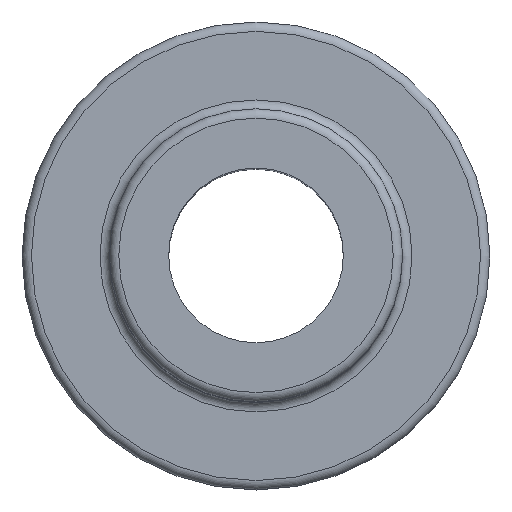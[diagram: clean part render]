
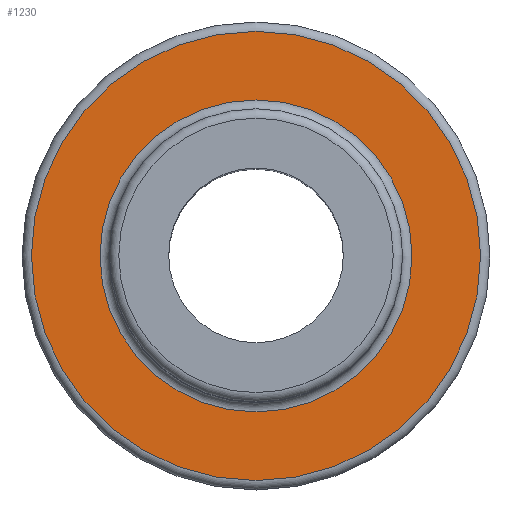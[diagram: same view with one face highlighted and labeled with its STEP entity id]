
A CAD part, top view. The second image highlights one B-rep face of the part: STEP entity #1230.
In plain terms, the highlighted planar face has unit normal (0, 0, 1).
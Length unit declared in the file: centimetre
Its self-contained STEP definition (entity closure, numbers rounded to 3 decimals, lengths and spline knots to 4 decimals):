
#348=PLANE('',#1334);
#409=VERTEX_POINT('',#2610);
#410=VERTEX_POINT('',#2613);
#500=CIRCLE('',#1333,1.8288);
#501=CIRCLE('',#1335,1.27);
#578=EDGE_CURVE('',#409,#409,#500,.T.);
#579=EDGE_CURVE('',#410,#410,#501,.T.);
#807=ORIENTED_EDGE('',*,*,#579,.F.);
#808=ORIENTED_EDGE('',*,*,#578,.F.);
#1058=EDGE_LOOP('',(#807));
#1059=EDGE_LOOP('',(#808));
#1148=FACE_BOUND('',#1058,.T.);
#1149=FACE_BOUND('',#1059,.T.);
#1230=ADVANCED_FACE('',(#1148,#1149),#348,.T.);
#1333=AXIS2_PLACEMENT_3D('',#2609,#1523,#1524);
#1334=AXIS2_PLACEMENT_3D('',#2611,#1525,$);
#1335=AXIS2_PLACEMENT_3D('',#2612,#1526,#1527);
#1523=DIRECTION('',(0.,0.,-1.));
#1524=DIRECTION('',(0.,-1.829,0.));
#1525=DIRECTION('',(0.,0.,1.));
#1526=DIRECTION('',(0.,0.,1.));
#1527=DIRECTION('',(0.,-1.27,0.));
#2609=CARTESIAN_POINT('',(0.,0.,-2.6162));
#2610=CARTESIAN_POINT('',(0.,1.8288,-2.6162));
#2611=CARTESIAN_POINT('',(0.,1.5494,-2.6162));
#2612=CARTESIAN_POINT('',(0.,0.,-2.6162));
#2613=CARTESIAN_POINT('',(0.,1.27,-2.6162));
